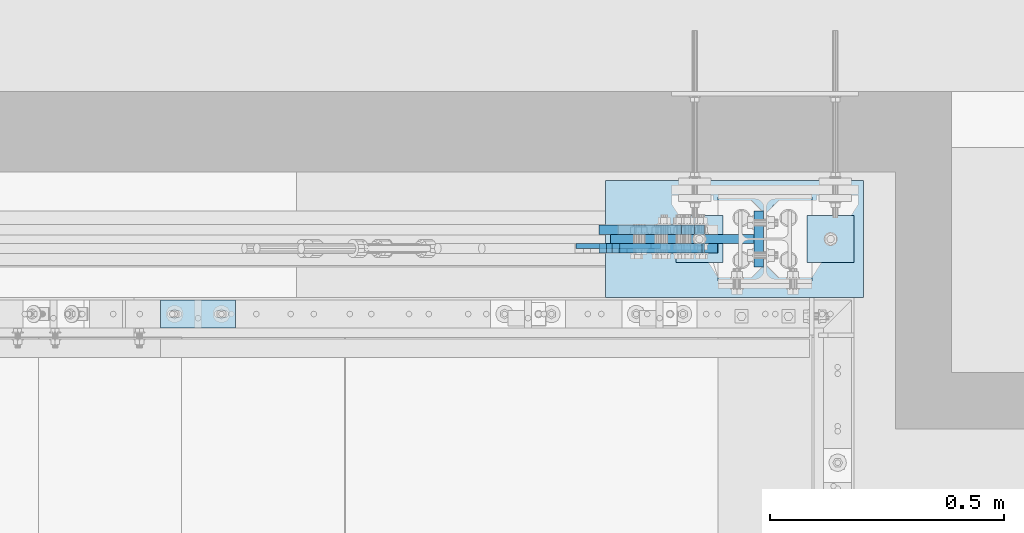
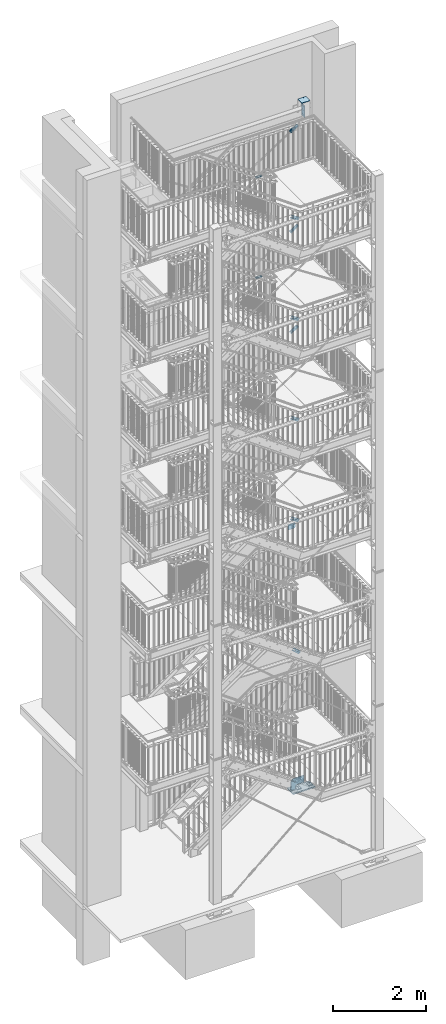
# One storey, part 209 of 825: 17 plates, 46 openings.
"""IFC2X3 building model written with IfcOpenShell, lengths in millimetres."""

from ifc_helpers import new_model, entity, si_unit, converted_unit, point, frame, frame_2d, origin, origin_with_axes, origin_2d_with_axis, place, context, project, spatial, polyline, circle_curve, line_curve, trimmed, segment, composite_curve, circle, outline, extrude, material, layer, layer_set, element, save


model = new_model("IFC2X3")

# Units and contexts
model_context = context("Model", 3, precision=1e-09, world=origin_with_axes())
ifc_project = project(units=[si_unit("LENGTHUNIT", "METRE", prefix="MILLI"), si_unit("AREAUNIT", "SQUARE_METRE"), si_unit("VOLUMEUNIT", "CUBIC_METRE"), converted_unit("PLANEANGLEUNIT", "DEGREE", entity("IfcPlaneAngleMeasure", 0.01745329), si_unit("PLANEANGLEUNIT", "RADIAN"), dimensions=[0, 0, 0, 0, 0, 0, 0])], contexts=[model_context])

# Site, building, storey
site_placement = place(None, origin_with_axes())
site = spatial("IfcSite", under=ifc_project, at=site_placement, Name="Cnopf'sche Kinderklinik", CompositionType="ELEMENT")
building_placement = place(site_placement, origin_with_axes())
building = spatial("IfcBuilding", under=site, at=building_placement, Name="Struktur 1", CompositionType="ELEMENT")
storey_placement = place(building_placement, origin_with_axes())
storey = spatial("IfcBuildingStorey", under=building, at=storey_placement, Name="Default Storey", CompositionType="ELEMENT", Elevation=0.0)

# Plate, opening
ifc_material = material(Name="S235JR")
ifc_layer_1 = layer(ifc_material, 12.0)
ifc_layer_set_1 = layer_set([ifc_layer_1], Name="S235JR")
plate_1_placement = place(None, frame((8726.713402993, 7516.736971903, 60.0), z_axis=(0.0, 0.0, 1.0), x_axis=(-1.0, 0.0, 0.0)))
plate_1 = element("IfcPlate", 1, at=plate_1_placement, inside=storey, material=ifc_layer_set_1, Name="-", ObjectType="-", context=model_context, shape_type="SweptSolid", body=[
    extrude(outline(polyline([(-50.0, -50.0), (50.0, -50.0), (50.0, 50.0), (-50.0, 50.0), (-50.0, -50.0)])), origin_with_axes(), (0.0, 0.0, 1.0), 12.0),
])
opening_1_placement = place(plate_1_placement, frame((1e-09, 1e-09, -0.5), z_axis=(0.0, 0.0, 1.0), x_axis=(1.0, 0.0, 0.0)))
element("IfcOpeningElement", 2, at=opening_1_placement, cuts=plate_1, ObjectType="Opening", context=model_context, shape_type="SweptSolid", body=[
    extrude(circle(Radius=9.001, at=origin_2d_with_axis()), origin(), (0.0, 0.0, 1.0), 13.0),
])

plate_2_placement = place(None, frame((9006.713402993, 7516.736971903, 60.0), z_axis=(0.0, 0.0, 1.0), x_axis=(-1.0, 0.0, 0.0)))
plate_2 = element("IfcPlate", 3, at=plate_2_placement, inside=storey, material=ifc_layer_set_1, Name="-", ObjectType="-", context=model_context, shape_type="SweptSolid", body=[
    extrude(outline(polyline([(-50.0, -50.0), (50.0, -50.0), (50.0, 50.0), (-50.0, 50.0), (-50.0, -50.0)])), origin_with_axes(), (0.0, 0.0, 1.0), 12.0),
])
opening_2_placement = place(plate_2_placement, frame((1e-09, 1e-09, -0.5), z_axis=(0.0, 0.0, 1.0), x_axis=(1.0, 0.0, 0.0)))
element("IfcOpeningElement", 4, at=opening_2_placement, cuts=plate_2, ObjectType="Opening", context=model_context, shape_type="SweptSolid", body=[
    extrude(circle(Radius=9.001, at=origin_2d_with_axis()), origin(), (0.0, 0.0, 1.0), 13.0),
])

# Plate, openings
ifc_layer_2 = layer(ifc_material, 30.0)
ifc_layer_set_2 = layer_set([ifc_layer_2], Name="S235JR")
plate_3_placement = place(None, frame((8801.713402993, 7516.736971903, 30.0), z_axis=(0.0, 0.0, 1.0), x_axis=(-1.0, 0.0, 0.0)))
plate_3 = element("IfcPlate", 5, at=plate_3_placement, inside=storey, material=ifc_layer_set_2, Name="-", ObjectType="-", context=model_context, shape_type="SweptSolid", body=[
    extrude(outline(polyline([(-275.0, -125.0), (275.0, -125.0), (275.0, 125.0), (-275.0, 125.0), (-275.0, -125.0)])), origin_with_axes(), (0.0, 0.0, 1.0), 30.0),
])
opening_3_placement = place(plate_3_placement, frame((-65.0, 0.0, -0.5), z_axis=(0.0, 0.0, 1.0), x_axis=(1.0, 0.0, 0.0)))
element("IfcOpeningElement", 6, at=opening_3_placement, cuts=plate_3, ObjectType="Opening", context=model_context, shape_type="SweptSolid", body=[
    extrude(circle(Radius=28.001, at=frame_2d((140.0, 0.0), x_axis=(1.0, 0.0))), origin(), (0.0, 0.0, 1.0), 31.0),
])
opening_4_placement = place(plate_3_placement, frame((-65.0, 0.0, -0.5), z_axis=(0.0, 0.0, 1.0), x_axis=(1.0, 0.0, 0.0)))
element("IfcOpeningElement", 7, at=opening_4_placement, cuts=plate_3, ObjectType="Opening", context=model_context, shape_type="SweptSolid", body=[
    extrude(circle(Radius=28.001, at=frame_2d((-140.0, 0.0), x_axis=(1.0, 0.0))), origin(), (0.0, 0.0, 1.0), 31.0),
])

ifc_layer_3 = layer(ifc_material, 20.0)
ifc_layer_set_3 = layer_set([ifc_layer_3], Name="S235JR")
plate_4_placement = place(None, frame((8700.088402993, 7506.736971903, 206.477386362), z_axis=(0.0, 1.0, 0.0), x_axis=(-1.0, 0.0, 0.0)))
plate_4 = element("IfcPlate", 8, at=plate_4_placement, inside=storey, material=ifc_layer_set_3, Name="-", ObjectType="-", context=model_context, shape_type="SweptSolid", body=[
    extrude(outline(polyline([(-163.375, -146.477386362), (163.375, -146.477386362), (163.375, 146.477386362), (-163.375, 146.477386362), (-163.375, -146.477386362)])), origin_with_axes(), (0.0, 0.0, 1.0), 20.0),
])
opening_5_placement = place(plate_4_placement, frame((0.0, 0.0, -0.1), z_axis=(0.0, 0.0, 1.0), x_axis=(1.0, 0.0, 0.0)))
element("IfcOpeningElement", 9, at=opening_5_placement, cuts=plate_4, ObjectType="Opening", context=model_context, shape_type="SweptSolid", body=[
    extrude(outline(composite_curve([segment(trimmed(circle_curve(frame_2d((-198.468160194, -200.200309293), x_axis=(1.0, 0.0)), 40.0), [point((-238.468160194, -200.200309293))], [point((-198.468160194, -240.200309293))], True, "CARTESIAN"), True, "CONTINUOUS"), segment(trimmed(line_curve((-198.468160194, -240.200309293), (1.0, 0.0), 201.844160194), [point((-198.468160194, -240.200309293))], [point((3.376, -240.200309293))], True, "CARTESIAN"), True, "CONTINUOUS"), segment(trimmed(circle_curve(frame_2d((3.376, -200.200309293), x_axis=(1.0, 0.0)), 40.0), [point((3.376, -240.200309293))], [point((43.376, -200.200309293))], True, "CARTESIAN"), True, "CONTINUOUS"), segment(trimmed(line_curve((43.376, -200.200309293), (0.0, 1.0), 126.678695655), [point((43.376, -200.200309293))], [point((43.376, -73.521613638))], True, "CARTESIAN"), True, "CONTINUOUS"), segment(trimmed(circle_curve(frame_2d((3.376, -73.521613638), x_axis=(1.0, 0.0)), 40.0), [point((43.376, -73.521613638))], [point((3.376, -33.521613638))], True, "CARTESIAN"), True, "CONTINUOUS"), segment(trimmed(line_curve((3.376, -33.521613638), (-1.0, 0.0), 201.844160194), [point((3.376, -33.521613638))], [point((-198.468160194, -33.521613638))], True, "CARTESIAN"), True, "CONTINUOUS"), segment(trimmed(circle_curve(frame_2d((-198.468160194, -73.521613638), x_axis=(1.0, 0.0)), 40.0), [point((-198.468160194, -33.521613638))], [point((-238.468160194, -73.521613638))], True, "CARTESIAN"), True, "CONTINUOUS"), segment(trimmed(line_curve((-238.468160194, -73.521613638), (0.0, -1.0), 126.678695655), [point((-238.468160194, -73.521613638))], [point((-238.468160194, -200.200309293))], True, "CARTESIAN"), True, "CONTINUOUS")], self_intersect=False)), origin(), (0.0, 0.0, 1.0), 20.2),
])
opening_6_placement = place(plate_4_placement, frame((0.0, 0.0, -0.1), z_axis=(0.0, 0.0, 1.0), x_axis=(1.0, 0.0, 0.0)))
element("IfcOpeningElement", 10, at=opening_6_placement, cuts=plate_4, ObjectType="Opening", context=model_context, shape_type="SweptSolid", body=[
    extrude(outline(polyline([(209.753690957, 203.906118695), (71.378333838, 185.095816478), (191.909853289, 43.56392964), (209.753690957, 203.906118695)])), origin(), (0.0, 0.0, 1.0), 20.2),
])
opening_7_placement = place(plate_4_placement, frame((100.284176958, 83.290813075, 20.5), z_axis=(0.0, 0.0, 1.0), x_axis=(1.0, 0.0, 0.0)))
element("IfcOpeningElement", 11, at=opening_7_placement, cuts=plate_4, ObjectType="Opening", context=model_context, shape_type="SweptSolid", body=[
    extrude(circle(Radius=9.001, at=frame_2d((6.821564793, 5.872329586), x_axis=(1.0, 0.0))), origin(), (0.0, 0.0, -1.0), 21.0),
])
opening_8_placement = place(plate_4_placement, frame((54.812130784, 44.146298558, 20.5), z_axis=(0.0, 0.0, 1.0), x_axis=(1.0, 0.0, 0.0)))
element("IfcOpeningElement", 12, at=opening_8_placement, cuts=plate_4, ObjectType="Opening", context=model_context, shape_type="SweptSolid", body=[
    extrude(circle(Radius=9.001, at=frame_2d((6.821564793, 5.872329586), x_axis=(1.0, 0.0))), origin(), (0.0, 0.0, -1.0), 21.0),
])

plate_5_placement = place(None, frame((8843.463402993, 7516.736971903, 17753.999999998), z_axis=(1.0, 0.0, 0.0), x_axis=(0.0, 0.0, -1.0)))
plate_5 = element("IfcPlate", 13, at=plate_5_placement, inside=storey, material=ifc_layer_set_3, Name="Endplate", ObjectType="Endplate", context=model_context, shape_type="SweptSolid", body=[
    extrude(outline(polyline([(-150.0, -60.0), (150.0, -60.0), (150.0, 60.0), (-150.0, 60.0), (-150.0, -60.0)])), origin_with_axes(), (0.0, 0.0, 1.0), 20.0),
])
opening_9_placement = place(plate_5_placement, frame((-55.2, 18.1, 20.5), z_axis=(0.0, 0.0, -1.0), x_axis=(-1.0, 0.0, 0.0)))
element("IfcOpeningElement", 14, at=opening_9_placement, cuts=plate_5, ObjectType="Opening", context=model_context, shape_type="SweptSolid", body=[
    extrude(circle(Radius=6.001, at=origin_2d_with_axis()), origin(), (0.0, 0.0, 1.0), 21.0),
])
opening_10_placement = place(plate_5_placement, frame((135.2, 18.1, 20.5), z_axis=(0.0, 0.0, -1.0), x_axis=(-1.0, 0.0, 0.0)))
element("IfcOpeningElement", 15, at=opening_10_placement, cuts=plate_5, ObjectType="Opening", context=model_context, shape_type="SweptSolid", body=[
    extrude(circle(Radius=6.001, at=origin_2d_with_axis()), origin(), (0.0, 0.0, 1.0), 21.0),
])
opening_11_placement = place(plate_5_placement, frame((135.2, -18.1, 20.5), z_axis=(0.0, 0.0, -1.0), x_axis=(-1.0, 0.0, 0.0)))
element("IfcOpeningElement", 16, at=opening_11_placement, cuts=plate_5, ObjectType="Opening", context=model_context, shape_type="SweptSolid", body=[
    extrude(circle(Radius=6.001, at=origin_2d_with_axis()), origin(), (0.0, 0.0, 1.0), 21.0),
])
opening_12_placement = place(plate_5_placement, frame((-55.2, -18.1, 20.5), z_axis=(0.0, 0.0, -1.0), x_axis=(-1.0, 0.0, 0.0)))
element("IfcOpeningElement", 17, at=opening_12_placement, cuts=plate_5, ObjectType="Opening", context=model_context, shape_type="SweptSolid", body=[
    extrude(circle(Radius=6.001, at=origin_2d_with_axis()), origin(), (0.0, 0.0, 1.0), 21.0),
])
opening_13_placement = place(plate_5_placement, frame((100.0, -35.0, 20.5), z_axis=(0.0, 0.0, -1.0), x_axis=(0.0, -1.0, 0.0)))
element("IfcOpeningElement", 18, at=opening_13_placement, cuts=plate_5, ObjectType="Opening", context=model_context, shape_type="SweptSolid", body=[
    extrude(circle(Radius=9.001, at=origin_2d_with_axis()), origin(), (0.0, 0.0, 1.0), 21.0),
])
opening_14_placement = place(plate_5_placement, frame((100.0, 35.0, 20.5), z_axis=(0.0, 0.0, -1.0), x_axis=(0.0, 1.0, 0.0)))
element("IfcOpeningElement", 19, at=opening_14_placement, cuts=plate_5, ObjectType="Opening", context=model_context, shape_type="SweptSolid", body=[
    extrude(circle(Radius=9.001, at=origin_2d_with_axis()), origin(), (0.0, 0.0, 1.0), 21.0),
])
opening_15_placement = place(plate_5_placement, frame((-20.0, -35.0, 20.5), z_axis=(0.0, 0.0, -1.0), x_axis=(0.0, -1.0, 0.0)))
element("IfcOpeningElement", 20, at=opening_15_placement, cuts=plate_5, ObjectType="Opening", context=model_context, shape_type="SweptSolid", body=[
    extrude(circle(Radius=9.001, at=origin_2d_with_axis()), origin(), (0.0, 0.0, 1.0), 21.0),
])
opening_16_placement = place(plate_5_placement, frame((-20.0, 35.0, 20.5), z_axis=(0.0, 0.0, -1.0), x_axis=(0.0, 1.0, 0.0)))
element("IfcOpeningElement", 21, at=opening_16_placement, cuts=plate_5, ObjectType="Opening", context=model_context, shape_type="SweptSolid", body=[
    extrude(circle(Radius=9.001, at=origin_2d_with_axis()), origin(), (0.0, 0.0, 1.0), 21.0),
])
opening_17_placement = place(plate_5_placement, frame((-120.0, -35.0, 20.5), z_axis=(0.0, 0.0, -1.0), x_axis=(0.0, -1.0, 0.0)))
element("IfcOpeningElement", 22, at=opening_17_placement, cuts=plate_5, ObjectType="Opening", context=model_context, shape_type="SweptSolid", body=[
    extrude(circle(Radius=9.001, at=origin_2d_with_axis()), origin(), (0.0, 0.0, 1.0), 21.0),
])
opening_18_placement = place(plate_5_placement, frame((-120.0, 35.0, 20.5), z_axis=(0.0, 0.0, -1.0), x_axis=(0.0, 1.0, 0.0)))
element("IfcOpeningElement", 23, at=opening_18_placement, cuts=plate_5, ObjectType="Opening", context=model_context, shape_type="SweptSolid", body=[
    extrude(circle(Radius=9.001, at=origin_2d_with_axis()), origin(), (0.0, 0.0, 1.0), 21.0),
])

ifc_layer_4 = layer(ifc_material, 10.0)
ifc_layer_set_4 = layer_set([ifc_layer_4], Name="S235JR")
plate_6_placement = place(None, frame((8866.713402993, 7516.736971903, 18013.999999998), z_axis=(0.0, 0.0, 1.0), x_axis=(1.0, 0.0, 0.0)))
plate_6 = element("IfcPlate", 24, at=plate_6_placement, inside=storey, material=ifc_layer_set_4, Name="-", ObjectType="-", context=model_context, shape_type="SweptSolid", body=[
    extrude(outline(polyline([(-100.0, -90.0), (100.0, -90.0), (100.0, 90.0), (-100.0, 90.0), (-100.0, -90.0)])), origin_with_axes(), (0.0, 0.0, 1.0), 10.0),
])
opening_19_placement = place(plate_6_placement, frame((-21.25, -67.0, 10.5), z_axis=(0.0, 0.0, -1.0), x_axis=(0.0, -1.0, 0.0)))
element("IfcOpeningElement", 25, at=opening_19_placement, cuts=plate_6, ObjectType="Opening", context=model_context, shape_type="SweptSolid", body=[
    extrude(circle(Radius=6.001, at=origin_2d_with_axis()), origin(), (0.0, 0.0, 1.0), 11.0),
])
opening_20_placement = place(plate_6_placement, frame((-21.25, 67.0, 10.5), z_axis=(0.0, 0.0, -1.0), x_axis=(0.0, -1.0, 0.0)))
element("IfcOpeningElement", 26, at=opening_20_placement, cuts=plate_6, ObjectType="Opening", context=model_context, shape_type="SweptSolid", body=[
    extrude(circle(Radius=6.001, at=origin_2d_with_axis()), origin(), (0.0, 0.0, 1.0), 11.0),
])
opening_21_placement = place(plate_6_placement, frame((21.25, 67.0, 10.5), z_axis=(0.0, 0.0, -1.0), x_axis=(0.0, -1.0, 0.0)))
element("IfcOpeningElement", 27, at=opening_21_placement, cuts=plate_6, ObjectType="Opening", context=model_context, shape_type="SweptSolid", body=[
    extrude(circle(Radius=6.001, at=origin_2d_with_axis()), origin(), (0.0, 0.0, 1.0), 11.0),
])
opening_22_placement = place(plate_6_placement, frame((21.25, -67.0, 10.5), z_axis=(0.0, 0.0, -1.0), x_axis=(0.0, -1.0, 0.0)))
element("IfcOpeningElement", 28, at=opening_22_placement, cuts=plate_6, ObjectType="Opening", context=model_context, shape_type="SweptSolid", body=[
    extrude(circle(Radius=6.001, at=origin_2d_with_axis()), origin(), (0.0, 0.0, 1.0), 11.0),
])

plate_7_placement = place(None, frame((8587.050661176, 7506.736971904, 3768.76370292), z_axis=(0.0, 1.0, 0.0), x_axis=(0.654679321, 0.0, 0.755906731)))
plate_7 = element("IfcPlate", 29, at=plate_7_placement, inside=storey, material=ifc_layer_set_3, Name="-", ObjectType="-", context=model_context, shape_type="SweptSolid", body=[
    extrude(outline(polyline([(0.0, 0.0), (29.0, 0.0), (29.0, 210.0), (9.0, 230.0), (-31.0, 230.0), (-51.0, 210.0), (-51.0, 0.0), (-22.0, 0.0), (-22.0, 80.0), (0.0, 80.0), (0.0, 0.0)])), origin_with_axes(), (0.0, 0.0, -1.0), 20.0),
])
opening_23_placement = place(plate_7_placement, frame((-11.0, 149.001, 0.5), z_axis=(0.0, 0.0, 1.0), x_axis=(1.0, 0.0, 0.0)))
element("IfcOpeningElement", 30, at=opening_23_placement, cuts=plate_7, ObjectType="Opening", context=model_context, shape_type="SweptSolid", body=[
    extrude(circle(Radius=9.001, at=frame_2d((0.0, -9.001), x_axis=(1.0, 0.0))), origin(), (0.0, 0.0, -1.0), 21.0),
])
opening_24_placement = place(plate_7_placement, frame((-10.999999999, 209.001, 0.5), z_axis=(0.0, 0.0, 1.0), x_axis=(1.0, 0.0, 0.0)))
element("IfcOpeningElement", 31, at=opening_24_placement, cuts=plate_7, ObjectType="Opening", context=model_context, shape_type="SweptSolid", body=[
    extrude(circle(Radius=9.001, at=frame_2d((0.0, -9.001), x_axis=(1.0, 0.0))), origin(), (0.0, 0.0, -1.0), 21.0),
])

plate_8_placement = place(None, frame((8540.784171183, 7506.736971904, 7212.084413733), z_axis=(0.0, 1.0, 0.0), x_axis=(0.548720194, 0.0, 0.83600607)))
plate_8 = element("IfcPlate", 32, at=plate_8_placement, inside=storey, material=ifc_layer_set_3, Name="-", ObjectType="-", context=model_context, shape_type="SweptSolid", body=[
    extrude(outline(polyline([(0.0, 0.0), (29.0, 0.0), (29.0, 210.0), (9.0, 230.0), (-31.0, 230.0), (-51.0, 210.0), (-51.0, 0.0), (-22.0, 0.0), (-22.0, 80.0), (0.0, 80.0), (0.0, 0.0)])), origin_with_axes(), (0.0, 0.0, -1.0), 20.0),
])
opening_25_placement = place(plate_8_placement, frame((-11.0, 149.001, 0.5), z_axis=(0.0, 0.0, 1.0), x_axis=(1.0, 0.0, 0.0)))
element("IfcOpeningElement", 33, at=opening_25_placement, cuts=plate_8, ObjectType="Opening", context=model_context, shape_type="SweptSolid", body=[
    extrude(circle(Radius=9.001, at=frame_2d((0.0, -9.001), x_axis=(1.0, 0.0))), origin(), (0.0, 0.0, -1.0), 21.0),
])
opening_26_placement = place(plate_8_placement, frame((-11.0, 209.001, 0.5), z_axis=(0.0, 0.0, 1.0), x_axis=(1.0, 0.0, 0.0)))
element("IfcOpeningElement", 34, at=opening_26_placement, cuts=plate_8, ObjectType="Opening", context=model_context, shape_type="SweptSolid", body=[
    extrude(circle(Radius=9.001, at=frame_2d((0.0, -9.001), x_axis=(1.0, 0.0))), origin(), (0.0, 0.0, -1.0), 21.0),
])

plate_9_placement = place(None, frame((8540.455101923, 7546.736971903, 12017.116993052), z_axis=(0.0, -1.0, 0.0), x_axis=(0.54798027, 0.0, -0.836491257)))
plate_9 = element("IfcPlate", 35, at=plate_9_placement, inside=storey, material=ifc_layer_set_3, Name="-", ObjectType="-", context=model_context, shape_type="SweptSolid", body=[
    extrude(outline(polyline([(0.0, 0.0), (29.0, 0.0), (29.0, 210.0), (9.0, 230.0), (-31.0, 230.0), (-51.0, 210.0), (-51.0, 0.0), (-22.0, 0.0), (-22.0, 80.0), (0.0, 80.0), (0.0, 0.0)])), origin_with_axes(), (0.0, 0.0, 1.0), 20.0),
])
opening_27_placement = place(plate_9_placement, frame((-11.0, 170.0, -0.5), z_axis=(0.0, 0.0, 1.0), x_axis=(0.0, -1.0, 0.0)))
element("IfcOpeningElement", 36, at=opening_27_placement, cuts=plate_9, ObjectType="Opening", context=model_context, shape_type="SweptSolid", body=[
    extrude(circle(Radius=9.001, at=frame_2d((30.0, 0.0), x_axis=(1.0, 0.0))), origin(), (0.0, 0.0, 1.0), 21.0),
])
opening_28_placement = place(plate_9_placement, frame((-11.0, 170.0, -0.5), z_axis=(0.0, 0.0, 1.0), x_axis=(0.0, -1.0, 0.0)))
element("IfcOpeningElement", 37, at=opening_28_placement, cuts=plate_9, ObjectType="Opening", context=model_context, shape_type="SweptSolid", body=[
    extrude(circle(Radius=9.001, at=frame_2d((-30.0, 0.0), x_axis=(1.0, 0.0))), origin(), (0.0, 0.0, 1.0), 21.0),
])

plate_10_placement = place(None, frame((8540.586320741, 7506.736971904, 9843.800111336), z_axis=(0.0, 1.0, 0.0), x_axis=(0.547991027, 0.0, 0.83648421)))
plate_10 = element("IfcPlate", 38, at=plate_10_placement, inside=storey, material=ifc_layer_set_3, Name="-", ObjectType="-", context=model_context, shape_type="SweptSolid", body=[
    extrude(outline(polyline([(0.0, 0.0), (29.0, 0.0), (29.0, 210.0), (9.0, 230.0), (-31.0, 230.0), (-51.0, 210.0), (-51.0, 0.0), (-22.0, 0.0), (-22.0, 80.0), (0.0, 80.0), (0.0, 0.0)])), origin_with_axes(), (0.0, 0.0, -1.0), 20.0),
])
opening_29_placement = place(plate_10_placement, frame((-11.0, 149.001, 0.5), z_axis=(0.0, 0.0, 1.0), x_axis=(1.0, 0.0, 0.0)))
element("IfcOpeningElement", 39, at=opening_29_placement, cuts=plate_10, ObjectType="Opening", context=model_context, shape_type="SweptSolid", body=[
    extrude(circle(Radius=9.001, at=frame_2d((0.0, -9.001), x_axis=(1.0, 0.0))), origin(), (0.0, 0.0, -1.0), 21.0),
])
opening_30_placement = place(plate_10_placement, frame((-11.0, 209.001, 0.5), z_axis=(0.0, 0.0, 1.0), x_axis=(1.0, 0.0, 0.0)))
element("IfcOpeningElement", 40, at=opening_30_placement, cuts=plate_10, ObjectType="Opening", context=model_context, shape_type="SweptSolid", body=[
    extrude(circle(Radius=9.001, at=frame_2d((0.0, -9.001), x_axis=(1.0, 0.0))), origin(), (0.0, 0.0, -1.0), 21.0),
])

plate_11_placement = place(None, frame((8540.772966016, 7546.736971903, 14651.659861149), z_axis=(0.0, -1.0, 0.0), x_axis=(0.549157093, 0.0, -0.835719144)))
plate_11 = element("IfcPlate", 41, at=plate_11_placement, inside=storey, material=ifc_layer_set_3, Name="-", ObjectType="-", context=model_context, shape_type="SweptSolid", body=[
    extrude(outline(polyline([(0.0, 0.0), (29.0, 0.0), (29.0, 210.0), (9.0, 230.0), (-31.0, 230.0), (-51.0, 210.0), (-51.0, 0.0), (-22.0, 0.0), (-22.0, 80.0), (0.0, 80.0), (0.0, 0.0)])), origin_with_axes(), (0.0, 0.0, 1.0), 20.0),
])
opening_31_placement = place(plate_11_placement, frame((-11.0, 170.0, -0.5), z_axis=(0.0, 0.0, 1.0), x_axis=(0.0, -1.0, 0.0)))
element("IfcOpeningElement", 42, at=opening_31_placement, cuts=plate_11, ObjectType="Opening", context=model_context, shape_type="SweptSolid", body=[
    extrude(circle(Radius=9.001, at=frame_2d((30.0, 0.0), x_axis=(1.0, 0.0))), origin(), (0.0, 0.0, 1.0), 21.0),
])
opening_32_placement = place(plate_11_placement, frame((-11.0, 170.0, -0.5), z_axis=(0.0, 0.0, 1.0), x_axis=(0.0, -1.0, 0.0)))
element("IfcOpeningElement", 43, at=opening_32_placement, cuts=plate_11, ObjectType="Opening", context=model_context, shape_type="SweptSolid", body=[
    extrude(circle(Radius=9.001, at=frame_2d((-30.0, 0.0), x_axis=(1.0, 0.0))), origin(), (0.0, 0.0, 1.0), 21.0),
])

plate_12_placement = place(None, frame((8540.90280273, 7506.736971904, 12471.254814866), z_axis=(0.0, 1.0, 0.0), x_axis=(0.549157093, 0.0, 0.835719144)))
plate_12 = element("IfcPlate", 44, at=plate_12_placement, inside=storey, material=ifc_layer_set_3, Name="-", ObjectType="-", context=model_context, shape_type="SweptSolid", body=[
    extrude(outline(polyline([(0.0, 0.0), (29.0, 0.0), (29.0, 210.0), (9.0, 230.0), (-31.0, 230.0), (-51.0, 210.0), (-51.0, 0.0), (-22.0, 0.0), (-22.0, 80.0), (0.0, 80.0), (0.0, 0.0)])), origin_with_axes(), (0.0, 0.0, -1.0), 20.0),
])
opening_33_placement = place(plate_12_placement, frame((-11.0, 149.001, 0.5), z_axis=(0.0, 0.0, 1.0), x_axis=(1.0, 0.0, 0.0)))
element("IfcOpeningElement", 45, at=opening_33_placement, cuts=plate_12, ObjectType="Opening", context=model_context, shape_type="SweptSolid", body=[
    extrude(circle(Radius=9.001, at=frame_2d((0.0, -9.001), x_axis=(1.0, 0.0))), origin(), (0.0, 0.0, -1.0), 21.0),
])
opening_34_placement = place(plate_12_placement, frame((-11.0, 209.001, 0.5), z_axis=(0.0, 0.0, 1.0), x_axis=(1.0, 0.0, 0.0)))
element("IfcOpeningElement", 46, at=opening_34_placement, cuts=plate_12, ObjectType="Opening", context=model_context, shape_type="SweptSolid", body=[
    extrude(circle(Radius=9.001, at=frame_2d((0.0, -9.001), x_axis=(1.0, 0.0))), origin(), (0.0, 0.0, -1.0), 21.0),
])

plate_13_placement = place(None, frame((8540.179514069, 7546.736971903, 17272.513899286), z_axis=(0.0, -1.0, 0.0), x_axis=(0.546968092, 0.0, -0.837153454)))
plate_13 = element("IfcPlate", 47, at=plate_13_placement, inside=storey, material=ifc_layer_set_3, Name="-", ObjectType="-", context=model_context, shape_type="SweptSolid", body=[
    extrude(outline(polyline([(0.0, 0.0), (29.0, 0.0), (29.0, 210.0), (9.0, 230.0), (-31.0, 230.0), (-51.0, 210.0), (-51.0, 0.0), (-22.0, 0.0), (-22.0, 80.0), (0.0, 80.0), (0.0, 0.0)])), origin_with_axes(), (0.0, 0.0, 1.0), 20.0),
])
opening_35_placement = place(plate_13_placement, frame((-11.000000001, 170.0, -0.5), z_axis=(0.0, 0.0, 1.0), x_axis=(0.0, -1.0, 0.0)))
element("IfcOpeningElement", 48, at=opening_35_placement, cuts=plate_13, ObjectType="Opening", context=model_context, shape_type="SweptSolid", body=[
    extrude(circle(Radius=9.001, at=frame_2d((30.0, 0.0), x_axis=(1.0, 0.0))), origin(), (0.0, 0.0, 1.0), 21.0),
])
opening_36_placement = place(plate_13_placement, frame((-11.000000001, 170.0, -0.5), z_axis=(0.0, 0.0, 1.0), x_axis=(0.0, -1.0, 0.0)))
element("IfcOpeningElement", 49, at=opening_36_placement, cuts=plate_13, ObjectType="Opening", context=model_context, shape_type="SweptSolid", body=[
    extrude(circle(Radius=9.001, at=frame_2d((-30.0, 0.0), x_axis=(1.0, 0.0))), origin(), (0.0, 0.0, 1.0), 21.0),
])

plate_14_placement = place(None, frame((8540.309054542, 7506.736971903, 15105.401455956), z_axis=(0.0, 1.0, 0.0), x_axis=(0.546968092, 0.0, 0.837153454)))
plate_14 = element("IfcPlate", 50, at=plate_14_placement, inside=storey, material=ifc_layer_set_3, Name="-", ObjectType="-", context=model_context, shape_type="SweptSolid", body=[
    extrude(outline(polyline([(0.0, 0.0), (29.0, 0.0), (29.0, 210.0), (9.0, 230.0), (-31.0, 230.0), (-51.0, 210.0), (-51.0, 0.0), (-22.0, 0.0), (-22.0, 80.0), (0.0, 80.0), (0.0, 0.0)])), origin_with_axes(), (0.0, 0.0, -1.0), 20.0),
])
opening_37_placement = place(plate_14_placement, frame((-11.0, 149.001, 0.5), z_axis=(0.0, 0.0, 1.0), x_axis=(1.0, 0.0, 0.0)))
element("IfcOpeningElement", 51, at=opening_37_placement, cuts=plate_14, ObjectType="Opening", context=model_context, shape_type="SweptSolid", body=[
    extrude(circle(Radius=9.001, at=frame_2d((0.0, -9.001), x_axis=(1.0, 0.0))), origin(), (0.0, 0.0, -1.0), 21.0),
])
opening_38_placement = place(plate_14_placement, frame((-11.0, 209.001, 0.5), z_axis=(0.0, 0.0, 1.0), x_axis=(1.0, 0.0, 0.0)))
element("IfcOpeningElement", 52, at=opening_38_placement, cuts=plate_14, ObjectType="Opening", context=model_context, shape_type="SweptSolid", body=[
    extrude(circle(Radius=9.001, at=frame_2d((0.0, -9.001), x_axis=(1.0, 0.0))), origin(), (0.0, 0.0, -1.0), 21.0),
])

plate_15_placement = place(None, frame((8553.463402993, 7506.736971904, 6984.999996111), z_axis=(0.0, -1.0, 0.0), x_axis=(1.0, 0.0, 0.0)))
plate_15 = element("IfcPlate", 53, at=plate_15_placement, inside=storey, material=ifc_layer_set_4, Name="-", ObjectType="-", context=model_context, shape_type="SweptSolid", body=[
    extrude(outline(polyline([(-90.0, -70.0), (90.0, -70.0), (90.0, 70.0), (-90.0, 70.0), (-90.0, -70.0)])), origin_with_axes(), (0.0, 0.0, 1.0), 10.0),
])
opening_39_placement = place(plate_15_placement, frame((0.0, 0.0, -0.01), z_axis=(0.0, 0.0, 1.0), x_axis=(1.0, 0.0, 0.0)))
element("IfcOpeningElement", 54, at=opening_39_placement, cuts=plate_15, ObjectType="Opening", context=model_context, shape_type="SweptSolid", body=[
    extrude(outline(polyline([(90.0, -70.0), (90.0, -50.0), (70.0, -70.0), (90.0, -70.0)])), origin(), (0.0, 0.0, 1.0), 10.02),
])
opening_40_placement = place(plate_15_placement, frame((0.0, 0.0, -0.01), z_axis=(0.0, 0.0, 1.0), x_axis=(1.0, 0.0, 0.0)))
element("IfcOpeningElement", 55, at=opening_40_placement, cuts=plate_15, ObjectType="Opening", context=model_context, shape_type="SweptSolid", body=[
    extrude(outline(polyline([(90.0, 70.0), (70.0, 70.0), (90.0, 50.0), (90.0, 70.0)])), origin(), (0.0, 0.0, 1.0), 10.02),
])
opening_41_placement = place(plate_15_placement, frame((50.0, 0.0, -0.5), z_axis=(0.0, 0.0, 1.0), x_axis=(1.0, 0.0, 0.0)))
element("IfcOpeningElement", 56, at=opening_41_placement, cuts=plate_15, ObjectType="Opening", context=model_context, shape_type="SweptSolid", body=[
    extrude(circle(Radius=9.001, at=frame_2d((0.0, 30.0), x_axis=(1.0, 0.0))), origin(), (0.0, 0.0, 1.0), 11.0),
])
opening_42_placement = place(plate_15_placement, frame((50.0, 0.0, -0.5), z_axis=(0.0, 0.0, 1.0), x_axis=(1.0, 0.0, 0.0)))
element("IfcOpeningElement", 57, at=opening_42_placement, cuts=plate_15, ObjectType="Opening", context=model_context, shape_type="SweptSolid", body=[
    extrude(circle(Radius=9.001, at=frame_2d((0.0, -30.0), x_axis=(1.0, 0.0))), origin(), (0.0, 0.0, 1.0), 11.0),
])

plate_16_placement = place(None, frame((7736.713831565, 7386.736971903, 13896.5000001), z_axis=(0.0, 0.0, 1.0), x_axis=(-1.0, 0.0, 0.0)))
plate_16 = element("IfcPlate", 58, at=plate_16_placement, inside=storey, material=ifc_layer_set_3, Name="Plate#503", ObjectType="Plate#503", context=model_context, shape_type="SweptSolid", body=[
    extrude(outline(polyline([(0.0, 0.0), (160.0, 0.0), (160.0, 60.0), (0.0, 60.0), (0.0, 0.0)])), origin_with_axes(), (0.0, 0.0, 1.0), 20.0),
])
opening_43_placement = place(plate_16_placement, frame((38.0, 37.001, 20.5), z_axis=(0.0, 0.0, 1.0), x_axis=(-1.0, 0.0, 0.0)))
element("IfcOpeningElement", 59, at=opening_43_placement, cuts=plate_16, ObjectType="Opening", context=model_context, shape_type="SweptSolid", body=[
    extrude(outline(composite_curve([segment(trimmed(line_curve((0.0, 0.0), (1.0, 0.0), 16.0), [point((0.0, 0.0))], [point((16.0, 0.0))], True, "CARTESIAN"), True, "CONTINUOUS"), segment(trimmed(circle_curve(frame_2d((16.0, 7.001), x_axis=(1.0, 0.0)), 7.001), [point((16.0, 0.0))], [point((16.0, 14.002))], True, "CARTESIAN"), True, "CONTINUOUS"), segment(trimmed(line_curve((16.0, 14.002), (-1.0, 0.0), 16.0), [point((16.0, 14.002))], [point((0.0, 14.002))], True, "CARTESIAN"), True, "CONTINUOUS"), segment(trimmed(circle_curve(frame_2d((0.0, 7.001), x_axis=(1.0, 0.0)), 7.001), [point((0.0, 14.002))], [point((0.0, 0.0))], True, "CARTESIAN"), True, "CONTINUOUS")], self_intersect=False)), origin(), (0.0, 0.0, -1.0), 21.0),
])
opening_44_placement = place(plate_16_placement, frame((138.0, 37.001, 20.5), z_axis=(0.0, 0.0, 1.0), x_axis=(-1.0, 0.0, 0.0)))
element("IfcOpeningElement", 60, at=opening_44_placement, cuts=plate_16, ObjectType="Opening", context=model_context, shape_type="SweptSolid", body=[
    extrude(outline(composite_curve([segment(trimmed(line_curve((0.0, 0.0), (1.0, 0.0), 16.0), [point((0.0, 0.0))], [point((16.0, 0.0))], True, "CARTESIAN"), True, "CONTINUOUS"), segment(trimmed(circle_curve(frame_2d((16.0, 7.001), x_axis=(1.0, 0.0)), 7.001), [point((16.0, 0.0))], [point((16.0, 14.002))], True, "CARTESIAN"), True, "CONTINUOUS"), segment(trimmed(line_curve((16.0, 14.002), (-1.0, 0.0), 16.0), [point((16.0, 14.002))], [point((0.0, 14.002))], True, "CARTESIAN"), True, "CONTINUOUS"), segment(trimmed(circle_curve(frame_2d((0.0, 7.001), x_axis=(1.0, 0.0)), 7.001), [point((0.0, 14.002))], [point((0.0, 0.0))], True, "CARTESIAN"), True, "CONTINUOUS")], self_intersect=False)), origin(), (0.0, 0.0, -1.0), 21.0),
])

plate_17_placement = place(None, frame((7736.713831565, 7386.736971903, 16524.0000003), z_axis=(0.0, 0.0, 1.0), x_axis=(-1.0, 0.0, 0.0)))
plate_17 = element("IfcPlate", 61, at=plate_17_placement, inside=storey, material=ifc_layer_set_3, Name="Plate#503", ObjectType="Plate#503", context=model_context, shape_type="SweptSolid", body=[
    extrude(outline(polyline([(0.0, 0.0), (160.0, 0.0), (160.0, 60.0), (0.0, 60.0), (0.0, 0.0)])), origin_with_axes(), (0.0, 0.0, 1.0), 20.0),
])
opening_45_placement = place(plate_17_placement, frame((38.0, 37.001, 20.5), z_axis=(0.0, 0.0, 1.0), x_axis=(-1.0, 0.0, 0.0)))
element("IfcOpeningElement", 62, at=opening_45_placement, cuts=plate_17, ObjectType="Opening", context=model_context, shape_type="SweptSolid", body=[
    extrude(outline(composite_curve([segment(trimmed(line_curve((0.0, 0.0), (1.0, 0.0), 16.0), [point((0.0, 0.0))], [point((16.0, 0.0))], True, "CARTESIAN"), True, "CONTINUOUS"), segment(trimmed(circle_curve(frame_2d((16.0, 7.001), x_axis=(1.0, 0.0)), 7.001), [point((16.0, 0.0))], [point((16.0, 14.002))], True, "CARTESIAN"), True, "CONTINUOUS"), segment(trimmed(line_curve((16.0, 14.002), (-1.0, 0.0), 16.0), [point((16.0, 14.002))], [point((0.0, 14.002))], True, "CARTESIAN"), True, "CONTINUOUS"), segment(trimmed(circle_curve(frame_2d((0.0, 7.001), x_axis=(1.0, 0.0)), 7.001), [point((0.0, 14.002))], [point((0.0, 0.0))], True, "CARTESIAN"), True, "CONTINUOUS")], self_intersect=False)), origin(), (0.0, 0.0, -1.0), 21.0),
])
opening_46_placement = place(plate_17_placement, frame((138.0, 37.001, 20.5), z_axis=(0.0, 0.0, 1.0), x_axis=(-1.0, 0.0, 0.0)))
element("IfcOpeningElement", 63, at=opening_46_placement, cuts=plate_17, ObjectType="Opening", context=model_context, shape_type="SweptSolid", body=[
    extrude(outline(composite_curve([segment(trimmed(line_curve((0.0, 0.0), (1.0, 0.0), 16.0), [point((0.0, 0.0))], [point((16.0, 0.0))], True, "CARTESIAN"), True, "CONTINUOUS"), segment(trimmed(circle_curve(frame_2d((16.0, 7.001), x_axis=(1.0, 0.0)), 7.001), [point((16.0, 0.0))], [point((16.0, 14.002))], True, "CARTESIAN"), True, "CONTINUOUS"), segment(trimmed(line_curve((16.0, 14.002), (-1.0, 0.0), 16.0), [point((16.0, 14.002))], [point((0.0, 14.002))], True, "CARTESIAN"), True, "CONTINUOUS"), segment(trimmed(circle_curve(frame_2d((0.0, 7.001), x_axis=(1.0, 0.0)), 7.001), [point((0.0, 14.002))], [point((0.0, 0.0))], True, "CARTESIAN"), True, "CONTINUOUS")], self_intersect=False)), origin(), (0.0, 0.0, -1.0), 21.0),
])

save(model, "model.ifc")
